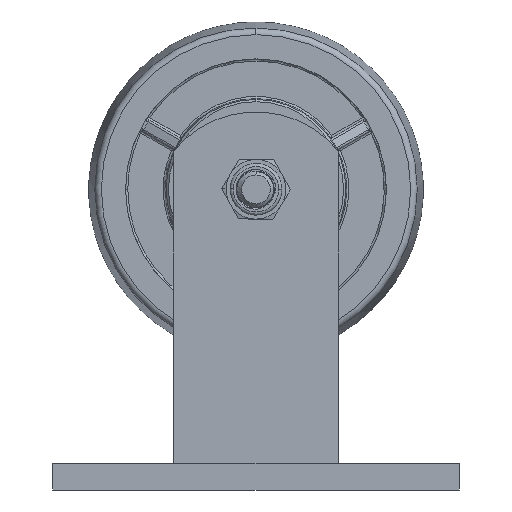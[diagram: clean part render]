
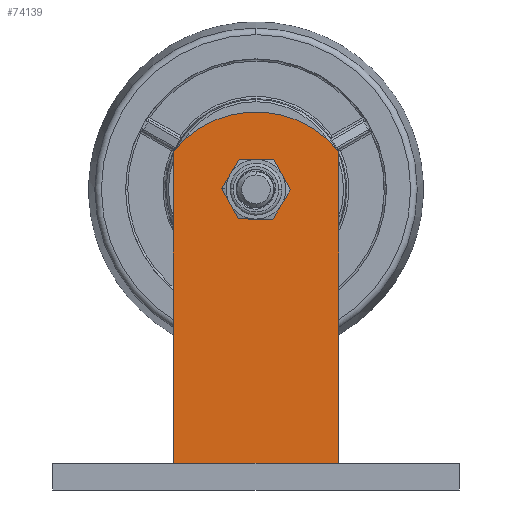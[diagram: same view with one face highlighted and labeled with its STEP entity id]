
A CAD part, front view. The second image highlights one B-rep face of the part: STEP entity #74139.
In plain terms, the highlighted planar face has unit normal (0, -1, 0) as drawn and (0, 0, -1) by its records, which use the part's own axes.
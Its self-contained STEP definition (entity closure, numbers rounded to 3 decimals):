
#13408 = DIRECTION ( 'NONE',  ( 0., 0., -1. ) ) ;
#27720 = EDGE_CURVE ( 'NONE', #111765, #261245, #190422, .T. ) ;
#29747 = VERTEX_POINT ( 'NONE', #108702 ) ;
#29800 = ORIENTED_EDGE ( 'NONE', *, *, #50720, .F. ) ;
#35238 = CARTESIAN_POINT ( 'NONE',  ( 37.5, 0., 0. ) ) ;
#41213 = CARTESIAN_POINT ( 'NONE',  ( 0., 0., 0. ) ) ;
#42973 = FACE_BOUND ( 'NONE', #250401, .T. ) ;
#43602 = CARTESIAN_POINT ( 'NONE',  ( 0., -124., 0. ) ) ;
#43900 = VECTOR ( 'NONE', #242534, 1000. ) ;
#47536 = LINE ( 'NONE', #35238, #287566 ) ;
#47620 = ORIENTED_EDGE ( 'NONE', *, *, #55433, .F. ) ;
#49278 = DIRECTION ( 'NONE',  ( 1., 0., 0. ) ) ;
#50720 = EDGE_CURVE ( 'NONE', #95444, #147719, #169221, .T. ) ;
#55433 = EDGE_CURVE ( 'NONE', #100906, #29747, #280436, .T. ) ;
#65996 = DIRECTION ( 'NONE',  ( 1., 0., 0. ) ) ;
#66728 = CIRCLE ( 'NONE', #200911, 9.25 ) ;
#66997 = DIRECTION ( 'NONE',  ( 0., -1., 0. ) ) ;
#68231 = CARTESIAN_POINT ( 'NONE',  ( -9.25, -124., 0. ) ) ;
#68789 = CARTESIAN_POINT ( 'NONE',  ( 0., 0., 0. ) ) ;
#71648 = DIRECTION ( 'NONE',  ( 0., 0., 1. ) ) ;
#73786 = DIRECTION ( 'NONE',  ( 0., 0., 1. ) ) ;
#74139 = ADVANCED_FACE ( 'NONE', ( #42973, #112757 ), #112568, .F. ) ;
#77009 = CARTESIAN_POINT ( 'NONE',  ( -37.5, -140.962, 0. ) ) ;
#80562 = DIRECTION ( 'NONE',  ( 1., 0., 0. ) ) ;
#80836 = CARTESIAN_POINT ( 'NONE',  ( -37.5, 0., 0. ) ) ;
#88116 = CARTESIAN_POINT ( 'NONE',  ( 9.25, -124., 0. ) ) ;
#95202 = DIRECTION ( 'NONE',  ( 1., 0., 0. ) ) ;
#95444 = VERTEX_POINT ( 'NONE', #134042 ) ;
#100906 = VERTEX_POINT ( 'NONE', #77009 ) ;
#105258 = EDGE_CURVE ( 'NONE', #261245, #111765, #66728, .T. ) ;
#108702 = CARTESIAN_POINT ( 'NONE',  ( 37.5, -140.962, 0. ) ) ;
#111765 = VERTEX_POINT ( 'NONE', #88116 ) ;
#112568 = PLANE ( 'NONE',  #226891 ) ;
#112757 = FACE_OUTER_BOUND ( 'NONE', #170871, .T. ) ;
#116757 = LINE ( 'NONE', #180745, #228120 ) ;
#118521 = CARTESIAN_POINT ( 'NONE',  ( 0., -111., 0. ) ) ;
#134042 = CARTESIAN_POINT ( 'NONE',  ( 37.5, 0., 0. ) ) ;
#135284 = AXIS2_PLACEMENT_3D ( 'NONE', #239059, #13408, #80562 ) ;
#137403 = AXIS2_PLACEMENT_3D ( 'NONE', #118521, #73786, #95202 ) ;
#147719 = VERTEX_POINT ( 'NONE', #80836 ) ;
#169221 = LINE ( 'NONE', #41213, #43900 ) ;
#170871 = EDGE_LOOP ( 'NONE', ( #249313, #47620, #266884, #29800 ) ) ;
#180745 = CARTESIAN_POINT ( 'NONE',  ( -37.5, 0., 0. ) ) ;
#184822 = ORIENTED_EDGE ( 'NONE', *, *, #105258, .F. ) ;
#190422 = CIRCLE ( 'NONE', #135284, 9.25 ) ;
#190871 = DIRECTION ( 'NONE',  ( 0., 1., 0. ) ) ;
#199238 = DIRECTION ( 'NONE',  ( 0., 0., -1. ) ) ;
#200911 = AXIS2_PLACEMENT_3D ( 'NONE', #43602, #199238, #65996 ) ;
#226891 = AXIS2_PLACEMENT_3D ( 'NONE', #68789, #71648, #49278 ) ;
#228120 = VECTOR ( 'NONE', #66997, 1000. ) ;
#239059 = CARTESIAN_POINT ( 'NONE',  ( 0., -124., 0. ) ) ;
#242534 = DIRECTION ( 'NONE',  ( -1., 0., 0. ) ) ;
#248385 = ORIENTED_EDGE ( 'NONE', *, *, #27720, .F. ) ;
#249313 = ORIENTED_EDGE ( 'NONE', *, *, #251413, .F. ) ;
#250401 = EDGE_LOOP ( 'NONE', ( #248385, #184822 ) ) ;
#251413 = EDGE_CURVE ( 'NONE', #29747, #95444, #47536, .T. ) ;
#261245 = VERTEX_POINT ( 'NONE', #68231 ) ;
#266884 = ORIENTED_EDGE ( 'NONE', *, *, #278399, .F. ) ;
#278399 = EDGE_CURVE ( 'NONE', #147719, #100906, #116757, .T. ) ;
#280436 = CIRCLE ( 'NONE', #137403, 48. ) ;
#287566 = VECTOR ( 'NONE', #190871, 1000. ) ;
